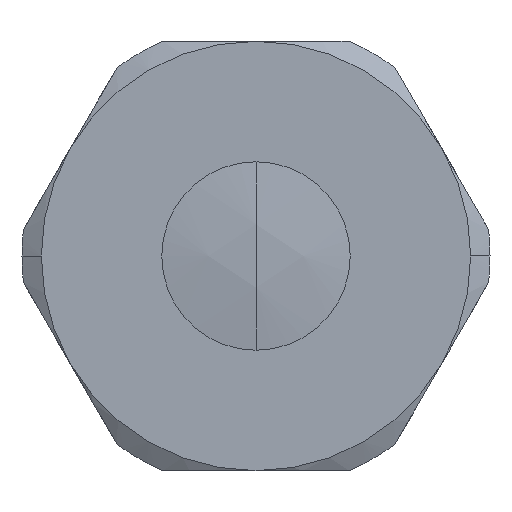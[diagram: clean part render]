
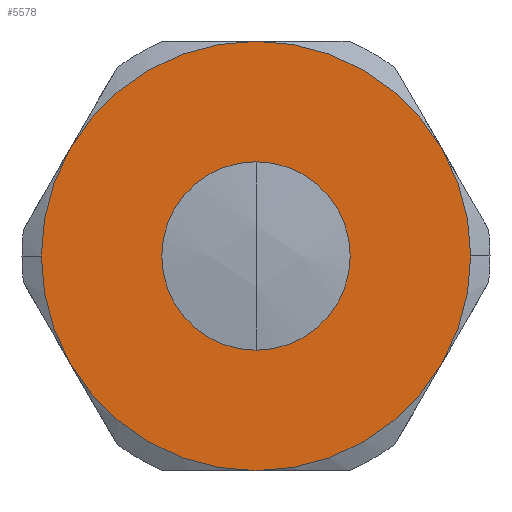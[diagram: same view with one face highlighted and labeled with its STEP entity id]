
A CAD part, left-side view. The second image highlights one B-rep face of the part: STEP entity #5578.
In plain terms, the highlighted planar face has unit normal (-1, 0, 0).
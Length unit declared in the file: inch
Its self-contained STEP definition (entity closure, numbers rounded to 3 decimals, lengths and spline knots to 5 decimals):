
#135=CARTESIAN_POINT('',(-2.0,0.2195,0.));
#136=VERTEX_POINT('',#135);
#143=CARTESIAN_POINT('',(-2.0,-0.2195,0.));
#144=VERTEX_POINT('',#143);
#145=CARTESIAN_POINT('',(-2.0,0.,0.));
#146=DIRECTION('',(1.0,0.0,0.0));
#147=DIRECTION('',(0.0,1.0,0.0));
#148=AXIS2_PLACEMENT_3D('',#145,#146,#147);
#149=CIRCLE('',#148,0.2195);
#150=EDGE_CURVE('',#144,#136,#149,.T.);
#176=CARTESIAN_POINT('',(-2.0,-0.5,0.));
#177=VERTEX_POINT('',#176);
#186=CARTESIAN_POINT('',(-2.0,-0.43301,-0.25));
#187=VERTEX_POINT('',#186);
#188=CARTESIAN_POINT('',(-2.0,0.,0.));
#189=DIRECTION('',(-1.0,0.0,0.0));
#190=DIRECTION('',(0.0,1.0,0.0));
#191=AXIS2_PLACEMENT_3D('',#188,#189,#190);
#192=CIRCLE('',#191,0.5);
#193=EDGE_CURVE('',#187,#177,#192,.T.);
#227=CARTESIAN_POINT('',(-2.0,0.5,0.));
#228=VERTEX_POINT('',#227);
#244=CARTESIAN_POINT('',(-2.0,0.43301,-0.25));
#245=VERTEX_POINT('',#244);
#259=CARTESIAN_POINT('',(-2.0,0.,0.));
#260=DIRECTION('',(-1.0,0.0,0.0));
#261=DIRECTION('',(0.0,1.0,0.0));
#262=AXIS2_PLACEMENT_3D('',#259,#260,#261);
#263=CIRCLE('',#262,0.5);
#264=EDGE_CURVE('',#228,#245,#263,.T.);
#5020=CARTESIAN_POINT('',(-2.0,-0.43301,0.25));
#5021=VERTEX_POINT('',#5020);
#5160=CARTESIAN_POINT('',(-2.0,0.,-0.5));
#5161=VERTEX_POINT('',#5160);
#5303=CARTESIAN_POINT('',(-2.0,0.,0.5));
#5304=VERTEX_POINT('',#5303);
#5347=CARTESIAN_POINT('',(-2.0,0.43301,0.25));
#5348=VERTEX_POINT('',#5347);
#5447=CARTESIAN_POINT('',(-2.0,0.,0.));
#5448=DIRECTION('',(-1.0,0.0,0.0));
#5449=DIRECTION('',(0.0,1.0,0.0));
#5450=AXIS2_PLACEMENT_3D('',#5447,#5448,#5449);
#5451=CIRCLE('',#5450,0.5);
#5452=EDGE_CURVE('',#5021,#5304,#5451,.T.);
#5466=CARTESIAN_POINT('',(-2.0,0.,0.));
#5467=DIRECTION('',(-1.0,0.0,0.0));
#5468=DIRECTION('',(0.0,1.0,0.0));
#5469=AXIS2_PLACEMENT_3D('',#5466,#5467,#5468);
#5470=CIRCLE('',#5469,0.5);
#5471=EDGE_CURVE('',#5304,#5348,#5470,.T.);
#5485=CARTESIAN_POINT('',(-2.0,0.,0.));
#5486=DIRECTION('',(-1.0,0.0,0.0));
#5487=DIRECTION('',(0.0,1.0,0.0));
#5488=AXIS2_PLACEMENT_3D('',#5485,#5486,#5487);
#5489=CIRCLE('',#5488,0.5);
#5490=EDGE_CURVE('',#5348,#228,#5489,.T.);
#5506=CARTESIAN_POINT('',(-2.0,0.,0.));
#5507=DIRECTION('',(-1.0,0.0,0.0));
#5508=DIRECTION('',(0.0,1.0,0.0));
#5509=AXIS2_PLACEMENT_3D('',#5506,#5507,#5508);
#5510=CIRCLE('',#5509,0.5);
#5511=EDGE_CURVE('',#245,#5161,#5510,.T.);
#5525=CARTESIAN_POINT('',(-2.0,0.,0.));
#5526=DIRECTION('',(-1.0,0.0,0.0));
#5527=DIRECTION('',(0.0,1.0,0.0));
#5528=AXIS2_PLACEMENT_3D('',#5525,#5526,#5527);
#5529=CIRCLE('',#5528,0.5);
#5530=EDGE_CURVE('',#5161,#187,#5529,.T.);
#5543=CARTESIAN_POINT('',(-2.0,0.,0.));
#5544=DIRECTION('',(-1.0,0.0,0.0));
#5545=DIRECTION('',(0.0,1.0,0.0));
#5546=AXIS2_PLACEMENT_3D('',#5543,#5544,#5545);
#5547=CIRCLE('',#5546,0.5);
#5548=EDGE_CURVE('',#177,#5021,#5547,.T.);
#5553=CARTESIAN_POINT('',(-2.0,0.,0.));
#5554=DIRECTION('',(1.0,0.0,0.0));
#5555=DIRECTION('',(0.0,0.0,-1.0));
#5556=AXIS2_PLACEMENT_3D('',#5553,#5554,#5555);
#5557=PLANE('',#5556);
#5558=ORIENTED_EDGE('',*,*,#5452,.T.);
#5559=ORIENTED_EDGE('',*,*,#5471,.T.);
#5560=ORIENTED_EDGE('',*,*,#5490,.T.);
#5561=ORIENTED_EDGE('',*,*,#264,.T.);
#5562=ORIENTED_EDGE('',*,*,#5511,.T.);
#5563=ORIENTED_EDGE('',*,*,#5530,.T.);
#5564=ORIENTED_EDGE('',*,*,#193,.T.);
#5565=ORIENTED_EDGE('',*,*,#5548,.T.);
#5566=EDGE_LOOP('',(#5558,#5559,#5560,#5561,#5562,#5563,#5564,#5565));
#5567=FACE_OUTER_BOUND('',#5566,.T.);
#5568=CARTESIAN_POINT('',(-2.0,0.,0.));
#5569=DIRECTION('',(1.0,0.0,0.0));
#5570=DIRECTION('',(0.0,1.0,0.0));
#5571=AXIS2_PLACEMENT_3D('',#5568,#5569,#5570);
#5572=CIRCLE('',#5571,0.2195);
#5573=EDGE_CURVE('',#136,#144,#5572,.T.);
#5574=ORIENTED_EDGE('',*,*,#5573,.T.);
#5575=ORIENTED_EDGE('',*,*,#150,.T.);
#5576=EDGE_LOOP('',(#5574,#5575));
#5577=FACE_BOUND('',#5576,.T.);
#5578=ADVANCED_FACE('',(#5567,#5577),#5557,.F.);
